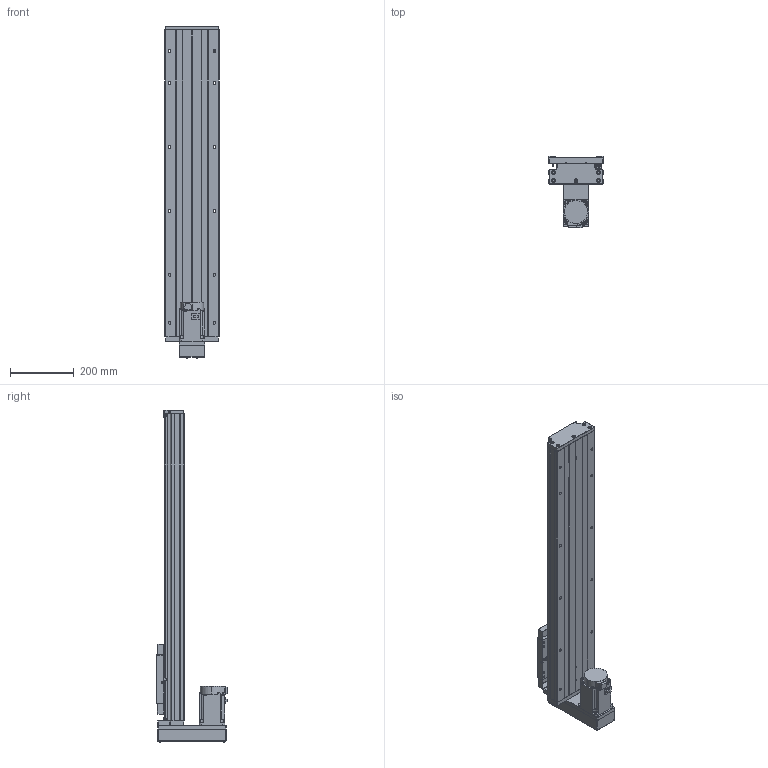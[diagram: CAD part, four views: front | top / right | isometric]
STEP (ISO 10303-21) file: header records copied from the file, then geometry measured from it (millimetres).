
FILE_DESCRIPTION (( 'STEP AP203' ), '1' );
FILE_NAME ('GTH17-700-BM-M75-C4.step', '2023-06-30T12:40:42', ( '微软用户' ), ( '微软中国' ), 'SwSTEP 2.0', 'SolidWorks 2020', '' );
FILE_SCHEMA (( 'CONFIG_CONTROL_DESIGN' ));
Length unit declared in the file: millimetre
Products named in the file (19): EE_SX911P_R; す晦芛蹟隊 M3℅5; GTH17-001_700; CTHA60-016; HG-KN73J-S100; GTH17-002_GTH17-002; GBT 70.1-M3℅5; GBT 70.2-M4¡Á45_M4¡Á35; GTH17-004; GBT77-2000 M3×3; GTH17-015-2_CTHA86-015-2; GTH17-005; GBT 70.1-M6¡Á20_M6¡Á20; GTH17-033; GB1155-6X6; GTH17-031; GTH17-700-BM-M75-C4; CTHA60-017; GBT 70.2-M3¡Á5_M3¡Á6
Assembly tree (58 placements, depth 2):
  GTH17-700-BM-M75-C4
    GTH17-001_700
    GTH17-002_GTH17-002
    GTH17-004
    GTH17-005
    GB1155-6X6  x2
    CTHA60-017  x3
    EE_SX911P_R  x3
    CTHA60-016  x2
    GBT 70.1-M3℅5  x6
    GBT77-2000 M3×3  x6
    GBT 70.1-M6¡Á20_M6¡Á20  x10
    GTH17-031
    GBT 70.2-M3¡Á5_M3¡Á6  x8
    す晦芛蹟隊 M3℅5  x6
    HG-KN73J-S100
    GBT 70.2-M4¡Á45_M4¡Á35  x4
    GTH17-015-2_CTHA86-015-2
    GTH17-033
Bounding box: 171 x 222.3 x 1038.2 mm (x, y, z)
Volume: 8704960.5 mm3; surface area: 1219205.7 mm2
Topology: 61 solids, 61 shells, 2449 faces, 5845 edges, 3619 vertices
Faces by surface type: plane 1310, cylinder 666, cone 297, torus 124, sphere 32, bspline 20
Entity records: 44738 total; most frequent: CARTESIAN_POINT 10366, DIRECTION 6481, ORIENTED_EDGE 6402, EDGE_CURVE 3201, AXIS2_PLACEMENT_3D 2212, LINE 2057, VECTOR 2057, VERTEX_POINT 2031
